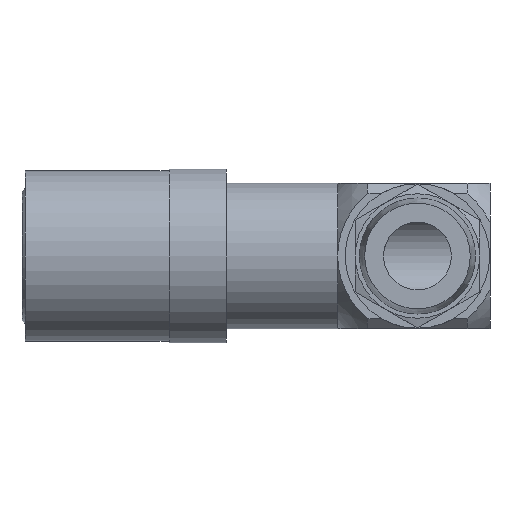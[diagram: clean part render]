
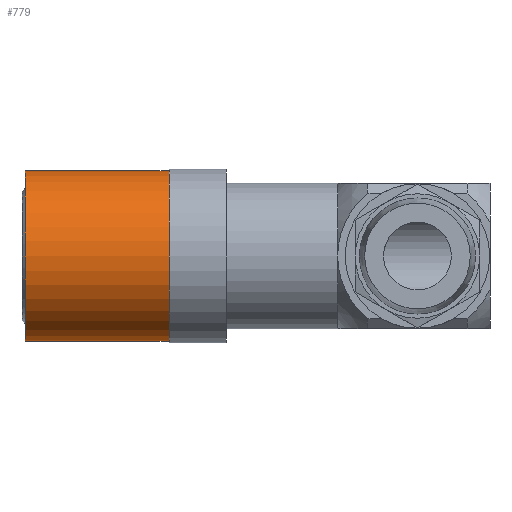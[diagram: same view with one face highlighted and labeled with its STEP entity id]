
A CAD part, front view. The second image highlights one B-rep face of the part: STEP entity #779.
In plain terms, the highlighted cylindrical face has radius 11.3 mm (diameter 22.6 mm), a full revolution.
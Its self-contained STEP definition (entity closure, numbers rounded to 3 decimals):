
#185=ORIENTED_EDGE('',*,*,#390,.F.);
#186=ORIENTED_EDGE('',*,*,#389,.T.);
#389=EDGE_CURVE('',#488,#488,#564,.T.);
#390=EDGE_CURVE('',#489,#489,#565,.T.);
#488=VERTEX_POINT('',#1350);
#489=VERTEX_POINT('',#1353);
#564=CIRCLE('',#890,11.3);
#565=CIRCLE('',#892,11.3);
#608=EDGE_LOOP('',(#185));
#609=EDGE_LOOP('',(#186));
#692=FACE_BOUND('',#608,.T.);
#693=FACE_BOUND('',#609,.T.);
#758=CYLINDRICAL_SURFACE('',#891,11.3);
#779=ADVANCED_FACE('',(#692,#693),#758,.T.);
#890=AXIS2_PLACEMENT_3D('',#1349,#1072,#1073);
#891=AXIS2_PLACEMENT_3D('',#1351,#1074,#1075);
#892=AXIS2_PLACEMENT_3D('',#1352,#1076,#1077);
#1072=DIRECTION('',(1.,0.,0.));
#1073=DIRECTION('',(0.,0.,-1.));
#1074=DIRECTION('',(1.,0.,0.));
#1075=DIRECTION('',(0.,0.,-1.));
#1076=DIRECTION('',(1.,0.,0.));
#1077=DIRECTION('',(0.,0.,-1.));
#1349=CARTESIAN_POINT('',(0.,0.,0.));
#1350=CARTESIAN_POINT('',(0.,0.,-11.3));
#1351=CARTESIAN_POINT('',(66.326,0.,0.));
#1352=CARTESIAN_POINT('',(19.05,0.,0.));
#1353=CARTESIAN_POINT('',(19.05,0.,-11.3));
